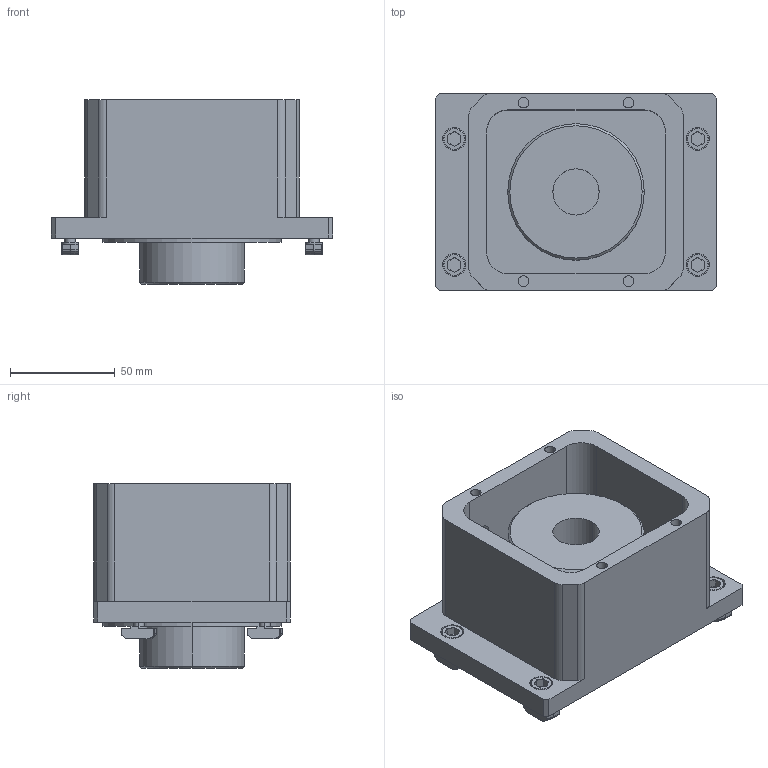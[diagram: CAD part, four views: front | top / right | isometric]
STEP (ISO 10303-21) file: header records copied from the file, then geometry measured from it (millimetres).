
FILE_DESCRIPTION((''),'2;1');
FILE_NAME('CK-100-X_ASM','2017-04-07T',('Owner'),(''),'PRO/ENGINEER BY PARAMETRIC TECHNOLOGY CORPORATION, 2009440','PRO/ENGINEER BY PARAMETRIC TECHNOLOGY CORPORATION, 2009440','');
FILE_SCHEMA(('CONFIG_CONTROL_DESIGN'));
Length unit declared in the file: millimetre
Products named in the file (4): CK-100-22; M6X10_COUNTERSINK; TN-M6; CK-100-X_ASM
Assembly tree (9 placements, depth 2):
  CK-100-X_ASM
    CK-100-22
    M6X10_COUNTERSINK  x4
    TN-M6  x4
Bounding box: 134 x 93.6 x 88 mm (x, y, z)
Volume: 468383 mm3; surface area: 87053 mm2
Topology: 9 solids, 9 shells, 501 faces, 1150 edges, 688 vertices
Faces by surface type: cylinder 230, plane 163, cone 44, sphere 24, torus 24, bspline 16
Entity records: 5832 total; most frequent: CARTESIAN_POINT 1270, DIRECTION 984, ORIENTED_EDGE 884, EDGE_CURVE 442, AXIS2_PLACEMENT_3D 374, VERTEX_POINT 274, VECTOR 236, LINE 236
